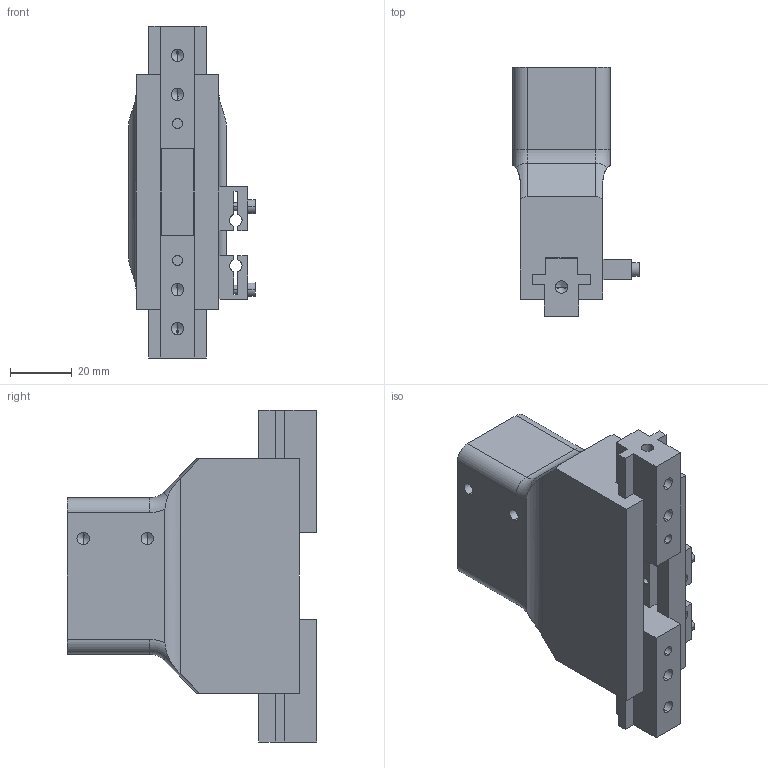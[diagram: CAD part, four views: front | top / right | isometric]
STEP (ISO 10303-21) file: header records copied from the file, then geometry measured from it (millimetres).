
FILE_DESCRIPTION (( 'STEP AP203' ), '1' );
FILE_NAME ('AGPT-1125 OPEN in MM.STEP', '2014-10-31T20:33:20', ( 'setup' ), ( '' ), 'SwSTEP 2.0', 'SolidWorks 2013', '' );
FILE_SCHEMA (( 'CONFIG_CONTROL_DESIGN' ));
Length unit declared in the file: millimetre
Products named in the file (5): AGPT-1125 OPEN in MM; agpt-1125_Body; agpt-1125_Jaw; RPG35S1; RPG35S2
Assembly tree (5 placements, depth 2):
  AGPT-1125 OPEN in MM
    agpt-1125_Body
    agpt-1125_Jaw  x2
    RPG35S1
    RPG35S2
Bounding box: 41.17 x 81.08 x 107.95 mm (x, y, z)
Volume: 142024.9 mm3; surface area: 31525.1 mm2
Topology: 5 solids, 5 shells, 217 faces, 584 edges, 364 vertices
Faces by surface type: plane 113, cylinder 80, cone 20, torus 4
Entity records: 6387 total; most frequent: CARTESIAN_POINT 1189, DIRECTION 976, ORIENTED_EDGE 972, EDGE_CURVE 486, AXIS2_PLACEMENT_3D 326, LINE 324, VECTOR 324, VERTEX_POINT 315
